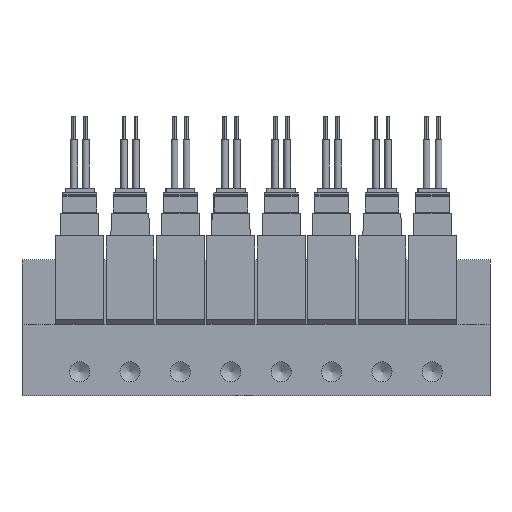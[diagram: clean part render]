
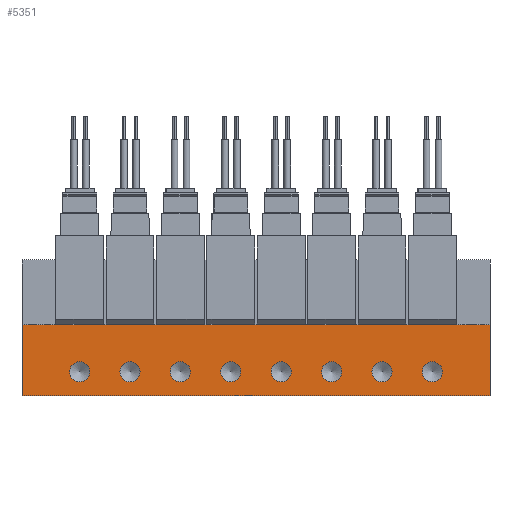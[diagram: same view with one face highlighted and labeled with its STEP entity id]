
A CAD part, front view. The second image highlights one B-rep face of the part: STEP entity #5351.
In plain terms, the highlighted planar face has unit normal (0, -1, 0).
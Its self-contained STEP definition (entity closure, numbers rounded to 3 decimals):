
#5351=ADVANCED_FACE('',(#8734,#8735,#8736,#8737,#8738,#8739,#8740,#8741,#8742),#8743,.F.);
#8734=FACE_BOUND('',#15678,.T.);
#8735=FACE_BOUND('',#15679,.T.);
#8736=FACE_BOUND('',#15680,.T.);
#8737=FACE_BOUND('',#15681,.T.);
#8738=FACE_BOUND('',#15682,.T.);
#8739=FACE_BOUND('',#15683,.T.);
#8740=FACE_BOUND('',#15684,.T.);
#8741=FACE_BOUND('',#15685,.T.);
#8742=FACE_OUTER_BOUND('',#15686,.T.);
#8743=PLANE('',#15687);
#15678=EDGE_LOOP('',(#24465));
#15679=EDGE_LOOP('',(#24466));
#15680=EDGE_LOOP('',(#24467));
#15681=EDGE_LOOP('',(#24468));
#15682=EDGE_LOOP('',(#24469));
#15683=EDGE_LOOP('',(#24470));
#15684=EDGE_LOOP('',(#24471));
#15685=EDGE_LOOP('',(#24472));
#15686=EDGE_LOOP('',(#24473,#24474,#24475,#24476));
#15687=AXIS2_PLACEMENT_3D('',#24477,#24478,#24479);
#24465=ORIENTED_EDGE('',*,*,#51056,.F.);
#24466=ORIENTED_EDGE('',*,*,#51057,.F.);
#24467=ORIENTED_EDGE('',*,*,#51058,.F.);
#24468=ORIENTED_EDGE('',*,*,#51059,.F.);
#24469=ORIENTED_EDGE('',*,*,#51060,.F.);
#24470=ORIENTED_EDGE('',*,*,#51061,.F.);
#24471=ORIENTED_EDGE('',*,*,#51062,.F.);
#24472=ORIENTED_EDGE('',*,*,#51063,.F.);
#24473=ORIENTED_EDGE('',*,*,#51051,.F.);
#24474=ORIENTED_EDGE('',*,*,#51064,.F.);
#24475=ORIENTED_EDGE('',*,*,#51016,.T.);
#24476=ORIENTED_EDGE('',*,*,#51055,.T.);
#24477=CARTESIAN_POINT('',(-97.5,0.,14.8));
#24478=DIRECTION('',(0.0,1.0,0.));
#24479=DIRECTION('',(0.0,0.,1.0));
#51016=EDGE_CURVE('',#59684,#59682,#59685,.T.);
#51051=EDGE_CURVE('',#59747,#59749,#59750,.T.);
#51055=EDGE_CURVE('',#59682,#59749,#59756,.T.);
#51056=EDGE_CURVE('',#59757,#59757,#59758,.T.);
#51057=EDGE_CURVE('',#59759,#59759,#59760,.T.);
#51058=EDGE_CURVE('',#59761,#59761,#59762,.T.);
#51059=EDGE_CURVE('',#59763,#59763,#59764,.T.);
#51060=EDGE_CURVE('',#59765,#59765,#59766,.T.);
#51061=EDGE_CURVE('',#59767,#59767,#59768,.T.);
#51062=EDGE_CURVE('',#59769,#59769,#59770,.T.);
#51063=EDGE_CURVE('',#59771,#59771,#59772,.T.);
#51064=EDGE_CURVE('',#59684,#59747,#59773,.T.);
#59682=VERTEX_POINT('',#74296);
#59684=VERTEX_POINT('',#74299);
#59685=LINE('',#74300,#74301);
#59747=VERTEX_POINT('',#74378);
#59749=VERTEX_POINT('',#74381);
#59750=LINE('',#74382,#74383);
#59756=LINE('',#74390,#74391);
#59757=VERTEX_POINT('',#74392);
#59758=CIRCLE('',#74393,2.1);
#59759=VERTEX_POINT('',#74394);
#59760=CIRCLE('',#74395,2.1);
#59761=VERTEX_POINT('',#74396);
#59762=CIRCLE('',#74397,2.1);
#59763=VERTEX_POINT('',#74398);
#59764=CIRCLE('',#74399,2.1);
#59765=VERTEX_POINT('',#74400);
#59766=CIRCLE('',#74401,2.1);
#59767=VERTEX_POINT('',#74402);
#59768=CIRCLE('',#74403,2.1);
#59769=VERTEX_POINT('',#74404);
#59770=CIRCLE('',#74405,2.1);
#59771=VERTEX_POINT('',#74406);
#59772=CIRCLE('',#74407,2.1);
#59773=LINE('',#74408,#74409);
#74296=CARTESIAN_POINT('',(-97.5,0.0,0.0));
#74299=CARTESIAN_POINT('',(-97.5,0.,14.8));
#74300=CARTESIAN_POINT('',(-97.5,0.,14.8));
#74301=VECTOR('',#95267,1.0);
#74378=CARTESIAN_POINT('',(0.0,0.,14.8));
#74381=CARTESIAN_POINT('',(0.0,0.0,0.0));
#74382=CARTESIAN_POINT('',(0.0,0.,14.8));
#74383=VECTOR('',#95338,1.0);
#74390=CARTESIAN_POINT('',(-97.5,0.0,0.0));
#74391=VECTOR('',#95346,1.0);
#74392=CARTESIAN_POINT('',(-85.5,0.,2.9));
#74393=AXIS2_PLACEMENT_3D('',#95347,#95348,#95349);
#74394=CARTESIAN_POINT('',(-75.0,0.,2.9));
#74395=AXIS2_PLACEMENT_3D('',#95350,#95351,#95352);
#74396=CARTESIAN_POINT('',(-64.5,0.,2.9));
#74397=AXIS2_PLACEMENT_3D('',#95353,#95354,#95355);
#74398=CARTESIAN_POINT('',(-54.0,0.,2.9));
#74399=AXIS2_PLACEMENT_3D('',#95356,#95357,#95358);
#74400=CARTESIAN_POINT('',(-43.5,0.,2.9));
#74401=AXIS2_PLACEMENT_3D('',#95359,#95360,#95361);
#74402=CARTESIAN_POINT('',(-33.0,0.,2.9));
#74403=AXIS2_PLACEMENT_3D('',#95362,#95363,#95364);
#74404=CARTESIAN_POINT('',(-22.5,0.,2.9));
#74405=AXIS2_PLACEMENT_3D('',#95365,#95366,#95367);
#74406=CARTESIAN_POINT('',(-12.0,0.,2.9));
#74407=AXIS2_PLACEMENT_3D('',#95368,#95369,#95370);
#74408=CARTESIAN_POINT('',(-97.5,0.,14.8));
#74409=VECTOR('',#95371,1.0);
#95267=DIRECTION('',(0.0,0.,-1.0));
#95338=DIRECTION('',(0.0,0.,-1.0));
#95346=DIRECTION('',(1.0,0.0,0.0));
#95347=CARTESIAN_POINT('',(-85.5,0.0,5.0));
#95348=DIRECTION('',(0.0,-1.0,0.));
#95349=DIRECTION('',(0.0,0.,-1.0));
#95350=CARTESIAN_POINT('',(-75.0,0.0,5.0));
#95351=DIRECTION('',(0.0,-1.0,0.));
#95352=DIRECTION('',(0.0,0.,-1.0));
#95353=CARTESIAN_POINT('',(-64.5,0.0,5.0));
#95354=DIRECTION('',(0.0,-1.0,0.));
#95355=DIRECTION('',(0.0,0.,-1.0));
#95356=CARTESIAN_POINT('',(-54.0,0.0,5.0));
#95357=DIRECTION('',(0.0,-1.0,0.));
#95358=DIRECTION('',(0.0,0.,-1.0));
#95359=CARTESIAN_POINT('',(-43.5,0.0,5.0));
#95360=DIRECTION('',(0.0,-1.0,0.));
#95361=DIRECTION('',(0.0,0.,-1.0));
#95362=CARTESIAN_POINT('',(-33.0,0.0,5.0));
#95363=DIRECTION('',(0.0,-1.0,0.));
#95364=DIRECTION('',(0.0,0.,-1.0));
#95365=CARTESIAN_POINT('',(-22.5,0.0,5.0));
#95366=DIRECTION('',(0.0,-1.0,0.));
#95367=DIRECTION('',(0.0,0.,-1.0));
#95368=CARTESIAN_POINT('',(-12.0,0.0,5.0));
#95369=DIRECTION('',(0.0,-1.0,0.));
#95370=DIRECTION('',(0.0,0.,-1.0));
#95371=DIRECTION('',(1.0,0.0,0.0));
